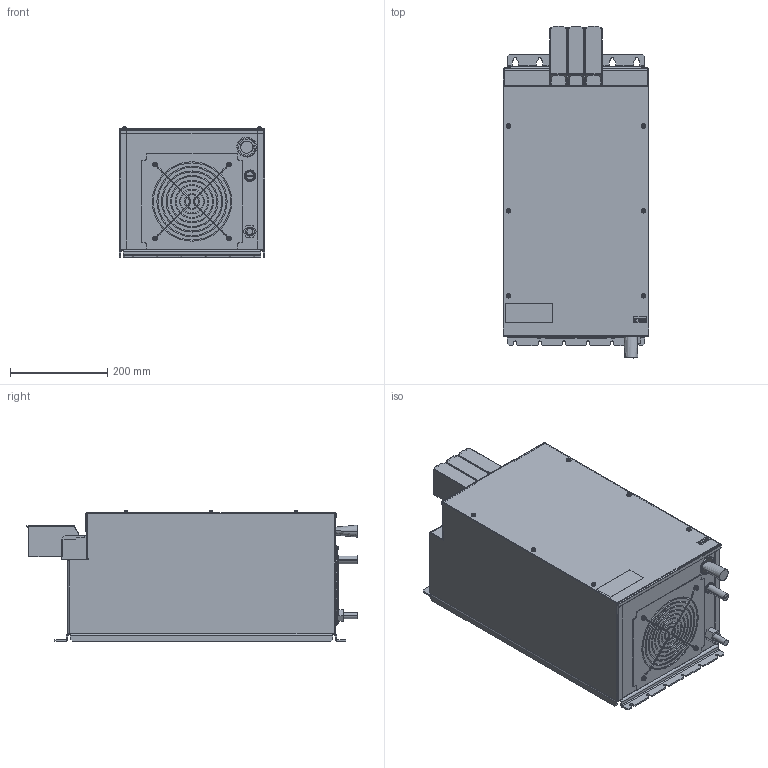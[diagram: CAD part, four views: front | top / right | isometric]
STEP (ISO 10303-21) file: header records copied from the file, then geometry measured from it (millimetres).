
FILE_DESCRIPTION (( 'STEP AP214' ), '1' );
FILE_NAME ('26H6J4G-A000.STEP', '2010-12-09T14:25:00', ( 'KEB' ), ( 'Karl E. Brinkmann GmbH' ), 'SwSTEP 2.0', 'SolidWorks 2007', '' );
FILE_SCHEMA (( 'AUTOMOTIVE_DESIGN' ));
Length unit declared in the file: millimetre
Products named in the file (1): 26H6J4G-A000
Bounding box: 299 x 683.76 x 269.04 mm (x, y, z)
Volume: 1957763.8 mm3; surface area: 1840882.9 mm2
Topology: 41 solids, 41 shells, 1186 faces, 2976 edges, 1851 vertices
Faces by surface type: plane 596, cylinder 364, torus 148, sphere 44, cone 20, bspline 14
Entity records: 49588 total; most frequent: CARTESIAN_POINT 7270, DIRECTION 6291, ORIENTED_EDGE 5916, EDGE_CURVE 2958, AXIS2_PLACEMENT_3D 2288, VERTEX_POINT 1851, VECTOR 1715, LINE 1715
